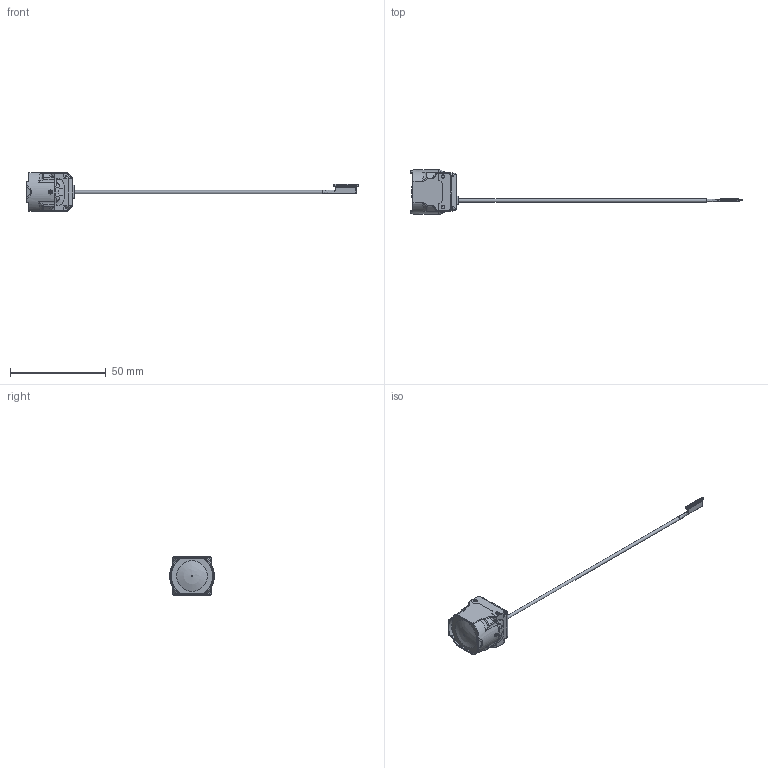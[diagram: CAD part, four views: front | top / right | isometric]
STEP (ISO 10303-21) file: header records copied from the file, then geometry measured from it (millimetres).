
FILE_DESCRIPTION(/* description */ ('','CAx-IF Rec.Pracs.---Representation and Presentation of Product Manufacturing Information (PMI)---4.0---2014-10-13'),/* implementation_level */ '2;1');
FILE_NAME(/* name */ 'DJI O4 PRO CAM.step',/* time_stamp */ '2025-01-15T01:50:43-08:00',/* author */ (''),/* organization */ (''),/* preprocessor_version */ 'ST-DEVELOPER v20',/* originating_system */ 'Autodesk Translation Framework v13.20.0.188',/* authorisation */ '');
FILE_SCHEMA (('AP242_MANAGED_MODEL_BASED_3D_ENGINEERING_MIM_LF { 1 0 10303 442 1 1 4 }'));
Products named in the file (6): DJI O4 PRO CAM; Rear Housing; Front Housing; 026xxxC MIPI PLUG; 026xxxC MIPI PLUG CABLE ASS'Y; 92000A003_Passivated 18-8 Stainless Steel Pan Head Phillips Screws
Assembly tree (4 placements, depth 2):
  DJI O4 PRO CAM
    Rear Housing
    Front Housing
    026xxxC MIPI PLUG
    92000A003_Passivated 18-8 Stainless Steel Pan Head Phillips Screws
  026xxxC MIPI PLUG CABLE ASS'Y
Bounding box: 173.76 x 23.84 x 20.01 mm (x, y, z)
Volume: 9288.6 mm3; surface area: 5206.1 mm2
Topology: 55 solids, 55 shells, 2519 faces, 6596 edges, 4182 vertices
Faces by surface type: plane 1204, cylinder 734, bspline 399, torus 128, cone 29, sphere 25
Full cylindrical faces by diameter (mm): 0.762 x6, 1.048 x12, 1.623 x20, 1.65 x2, 2 x2, 2.074 x10
Entity records: 94720 total; most frequent: CARTESIAN_POINT 34858, ORIENTED_EDGE 13142, DIRECTION 11454, EDGE_CURVE 6571, VERTEX_POINT 4182, AXIS2_PLACEMENT_3D 3836, LINE 3782, VECTOR 3782
